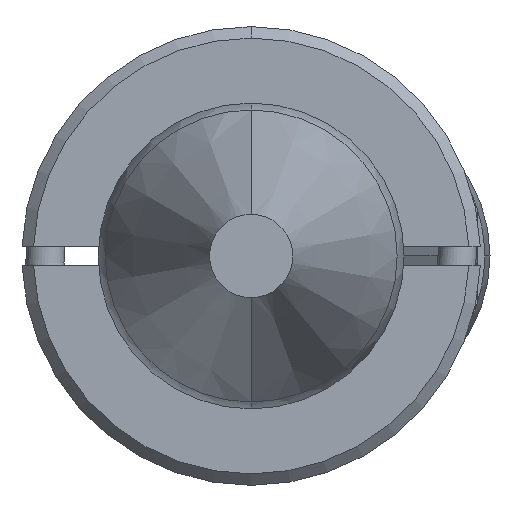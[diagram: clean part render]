
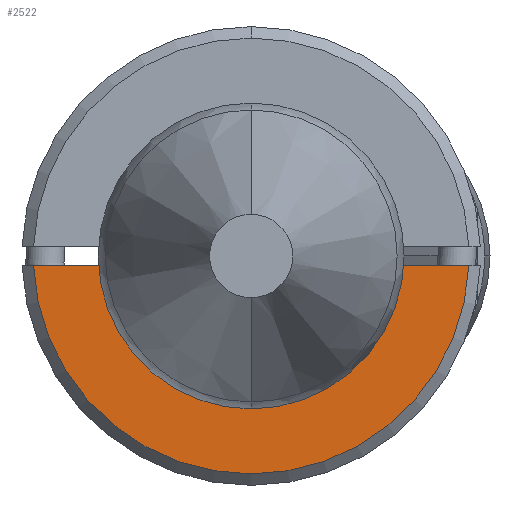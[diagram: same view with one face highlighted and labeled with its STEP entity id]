
A CAD part, front view. The second image highlights one B-rep face of the part: STEP entity #2522.
In plain terms, the highlighted planar face has unit normal (0, -1, 0).
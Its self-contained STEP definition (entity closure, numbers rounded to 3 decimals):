
#65 = VERTEX_POINT ( 'NONE', #1113 ) ;
#82 = ORIENTED_EDGE ( 'NONE', *, *, #1445, .T. ) ;
#186 = VERTEX_POINT ( 'NONE', #2907 ) ;
#256 = DIRECTION ( 'NONE',  ( 0., 0., -1. ) ) ;
#262 = PLANE ( 'NONE',  #3837 ) ;
#364 = CIRCLE ( 'NONE', #3470, 3.2 ) ;
#399 = EDGE_CURVE ( 'NONE', #65, #2734, #3803, .T. ) ;
#547 = CARTESIAN_POINT ( 'NONE',  ( 0., -6., 0. ) ) ;
#684 = EDGE_LOOP ( 'NONE', ( #1266, #82, #2362, #1798, #1839 ) ) ;
#879 = CARTESIAN_POINT ( 'NONE',  ( -6., -6., -0.25 ) ) ;
#923 = DIRECTION ( 'NONE',  ( 0., -1., 0. ) ) ;
#1113 = CARTESIAN_POINT ( 'NONE',  ( 3.19, -6., -0.25 ) ) ;
#1266 = ORIENTED_EDGE ( 'NONE', *, *, #2665, .F. ) ;
#1445 = EDGE_CURVE ( 'NONE', #3093, #2734, #1580, .T. ) ;
#1580 = CIRCLE ( 'NONE', #3100, 5.7 ) ;
#1798 = ORIENTED_EDGE ( 'NONE', *, *, #2986, .T. ) ;
#1830 = DIRECTION ( 'NONE',  ( 0., 1., 0. ) ) ;
#1839 = ORIENTED_EDGE ( 'NONE', *, *, #2632, .T. ) ;
#1876 = AXIS2_PLACEMENT_3D ( 'NONE', #547, #2429, #256 ) ;
#1941 = VECTOR ( 'NONE', #2191, 1000. ) ;
#2191 = DIRECTION ( 'NONE',  ( 1., 0., 0. ) ) ;
#2362 = ORIENTED_EDGE ( 'NONE', *, *, #399, .F. ) ;
#2419 = FACE_OUTER_BOUND ( 'NONE', #684, .T. ) ;
#2429 = DIRECTION ( 'NONE',  ( 0., 1., 0. ) ) ;
#2478 = DIRECTION ( 'NONE',  ( 0., 0., -1. ) ) ;
#2522 = ADVANCED_FACE ( 'NONE', ( #2419 ), #262, .T. ) ;
#2632 = EDGE_CURVE ( 'NONE', #3546, #186, #364, .T. ) ;
#2665 = EDGE_CURVE ( 'NONE', #3093, #186, #4052, .T. ) ;
#2679 = CARTESIAN_POINT ( 'NONE',  ( 0., -6., 0. ) ) ;
#2734 = VERTEX_POINT ( 'NONE', #2897 ) ;
#2767 = CARTESIAN_POINT ( 'NONE',  ( -6., -6., 0. ) ) ;
#2897 = CARTESIAN_POINT ( 'NONE',  ( 5.695, -6., -0.25 ) ) ;
#2907 = CARTESIAN_POINT ( 'NONE',  ( -3.19, -6., -0.25 ) ) ;
#2986 = EDGE_CURVE ( 'NONE', #65, #3546, #3271, .T. ) ;
#3093 = VERTEX_POINT ( 'NONE', #3193 ) ;
#3100 = AXIS2_PLACEMENT_3D ( 'NONE', #2679, #3941, #2478 ) ;
#3192 = VECTOR ( 'NONE', #3206, 1000. ) ;
#3193 = CARTESIAN_POINT ( 'NONE',  ( -5.695, -6., -0.25 ) ) ;
#3206 = DIRECTION ( 'NONE',  ( 1., 0., 0. ) ) ;
#3271 = CIRCLE ( 'NONE', #1876, 3.2 ) ;
#3414 = DIRECTION ( 'NONE',  ( 0., 0., -1. ) ) ;
#3470 = AXIS2_PLACEMENT_3D ( 'NONE', #3751, #1830, #3734 ) ;
#3546 = VERTEX_POINT ( 'NONE', #3600 ) ;
#3550 = CARTESIAN_POINT ( 'NONE',  ( -6., -6., -0.25 ) ) ;
#3600 = CARTESIAN_POINT ( 'NONE',  ( 0., -6., -3.2 ) ) ;
#3734 = DIRECTION ( 'NONE',  ( 0., 0., -1. ) ) ;
#3751 = CARTESIAN_POINT ( 'NONE',  ( 0., -6., 0. ) ) ;
#3803 = LINE ( 'NONE', #3550, #3192 ) ;
#3837 = AXIS2_PLACEMENT_3D ( 'NONE', #2767, #923, #3414 ) ;
#3941 = DIRECTION ( 'NONE',  ( 0., -1., 0. ) ) ;
#4052 = LINE ( 'NONE', #879, #1941 ) ;
